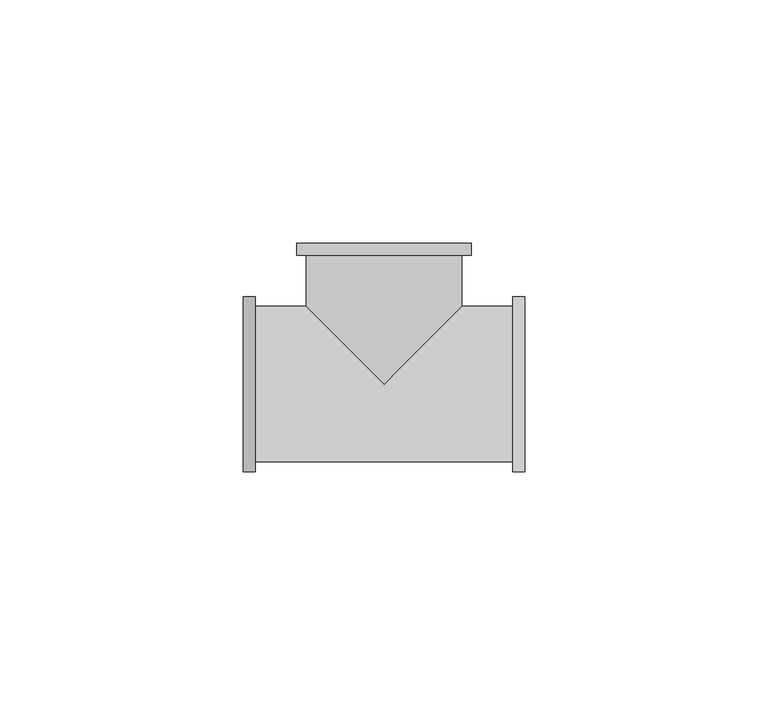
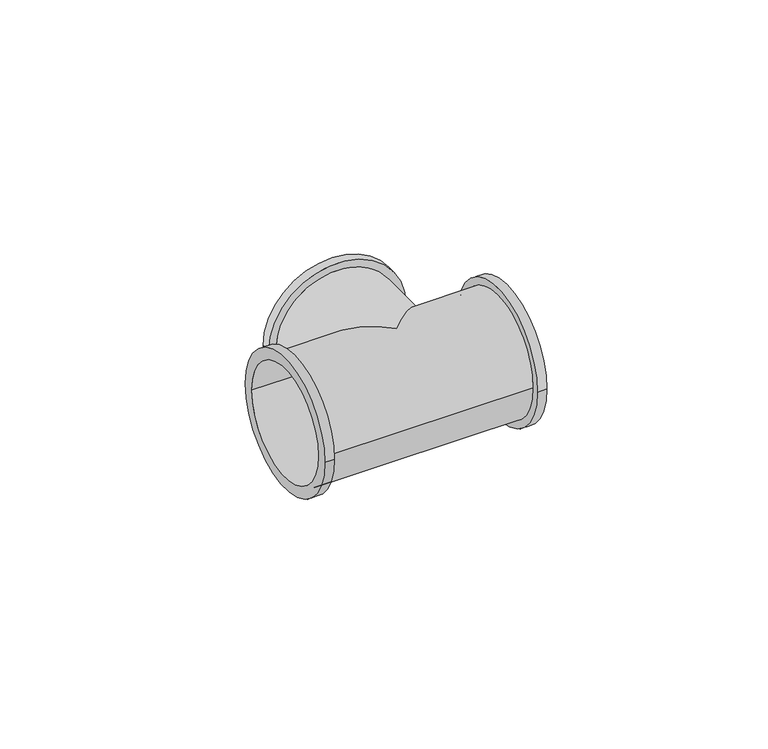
"""IFC4 building model written with IfcOpenShell, lengths in millimetres: pipe fitting geometry, БИР ПЕКС_НПР_Тройник ПЕКС : Тройник ПЕКС_НПР."""

from ifc_helpers import new_model, si_unit, frame, origin, place, context, project, spatial, polyline, circle_curve, ellipse_curve, source, transform, mapped, element, save
from ifc_brep_helpers import plane_surface, cylinder_surface, revolved_surface, advanced_brep


def pipe_fitting_c4d96b34(model_context):
    return source(origin(), model_context, "Body", "AdvancedBrep", [
        advanced_brep(
        [(-18.0, 29.0, 0.0), (18.0, 29.0, 0.0), (-15.0, 29.0, 0.0), (15.0, 29.0, 0.0), (16.0, 16.0, 0.0), (0.0, 0.0, -16.0), (-16.0, 16.0, 0.0), (-16.0, 26.5, 0.0), (16.0, 26.5, 0.0), (0.0, 0.0, 16.0), (29.0, -18.0, 0.0), (29.0, 18.0, 0.0), (-29.0, -18.0, 0.0), (-29.0, 18.0, 0.0), (-29.0, -15.0, 0.0), (-29.0, 15.0, 0.0), (26.5, 16.0, 0.0), (26.5, -16.0, 0.0), (-26.5, -16.0, 0.0), (-26.5, 16.0, 0.0), (-18.0, 26.5, 0.0), (18.0, 26.5, 0.0), (-26.5, -18.0, 0.0), (-26.5, 18.0, 0.0), (26.5, -18.0, 0.0), (26.5, 18.0, 0.0), (22.0, -15.0, 0.0), (22.0, 15.0, 0.0), (15.0, 15.0, 0.0), (0.0, 0.0, -15.0), (-15.0, 15.0, 0.0), (0.0, 0.0, 15.0)],
        [
            (0, 1, circle_curve(frame((0.0, 29.0, 0.0), z_axis=(0.0, 1.0, 0.0), x_axis=(1.0, 0.0, 0.0)), 18.0)),
            (1, 0, circle_curve(frame((0.0, 29.0, 0.0), z_axis=(0.0, 1.0, 0.0), x_axis=(1.0, 0.0, 0.0)), 18.0)),
            (2, 3, circle_curve(frame((0.0, 29.0, 0.0), z_axis=(0.0, -1.0, 0.0), x_axis=(1.0, 0.0, 0.0)), 15.0)),
            (3, 2, circle_curve(frame((0.0, 29.0, 0.0), z_axis=(0.0, -1.0, 0.0), x_axis=(1.0, 0.0, 0.0)), 15.0)),
            (4, 5, ellipse_curve(frame((0.0, 0.0, 0.0), z_axis=(-0.7071067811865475, 0.7071067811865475, 0.0), x_axis=(-0.7071067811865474, -0.7071067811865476, 0.0)), 22.627417, 16.0)),
            (5, 6, ellipse_curve(frame((0.0, 0.0, 0.0), z_axis=(0.7071067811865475, 0.7071067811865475, 0.0), x_axis=(0.7071067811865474, -0.7071067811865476, 0.0)), 22.627417, 16.0)),
            (6, 7),
            (7, 8, circle_curve(frame((0.0, 26.5, 0.0), z_axis=(0.0, -1.0, 0.0), x_axis=(1.0, 0.0, 0.0)), 16.0)),
            (8, 4),
            (9, 4, ellipse_curve(frame((0.0, 0.0, 0.0), z_axis=(-0.7071067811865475, 0.7071067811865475, 0.0), x_axis=(-0.7071067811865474, -0.7071067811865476, 0.0)), 22.627417, 16.0)),
            (8, 7, circle_curve(frame((0.0, 26.5, 0.0), z_axis=(0.0, -1.0, 0.0), x_axis=(1.0, 0.0, 0.0)), 16.0)),
            (6, 9, ellipse_curve(frame((0.0, 0.0, 0.0), z_axis=(0.7071067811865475, 0.7071067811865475, 0.0), x_axis=(0.7071067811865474, -0.7071067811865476, 0.0)), 22.627417, 16.0)),
            (10, 11, circle_curve(frame((29.0, 0.0, 0.0), z_axis=(1.0, 0.0, 0.0), x_axis=(0.0, 1.0, 0.0)), 18.0)),
            (11, 10, circle_curve(frame((29.0, 0.0, 0.0), z_axis=(1.0, 0.0, 0.0), x_axis=(0.0, 1.0, 0.0)), 18.0)),
            (12, 13, circle_curve(frame((-29.0, 0.0, 0.0), z_axis=(-1.0, 0.0, 0.0), x_axis=(0.0, 1.0, 0.0)), 18.0)),
            (13, 12, circle_curve(frame((-29.0, 0.0, 0.0), z_axis=(-1.0, 0.0, 0.0), x_axis=(0.0, 1.0, 0.0)), 18.0)),
            (14, 15, circle_curve(frame((-29.0, 0.0, 0.0), z_axis=(1.0, 0.0, 0.0), x_axis=(0.0, 1.0, 0.0)), 15.0)),
            (15, 14, circle_curve(frame((-29.0, 0.0, 0.0), z_axis=(1.0, 0.0, 0.0), x_axis=(0.0, 1.0, 0.0)), 15.0)),
            (4, 16),
            (16, 17, circle_curve(frame((26.5, 0.0, 0.0), z_axis=(-1.0, 0.0, 0.0), x_axis=(0.0, 1.0, 0.0)), 16.0)),
            (17, 18),
            (18, 19, circle_curve(frame((-26.5, 0.0, 0.0), z_axis=(1.0, 0.0, 0.0), x_axis=(0.0, 1.0, 0.0)), 16.0)),
            (19, 6),
            (19, 18, circle_curve(frame((-26.5, 0.0, 0.0), z_axis=(1.0, 0.0, 0.0), x_axis=(0.0, 1.0, 0.0)), 16.0)),
            (17, 16, circle_curve(frame((26.5, 0.0, 0.0), z_axis=(-1.0, 0.0, 0.0), x_axis=(0.0, 1.0, 0.0)), 16.0)),
            (20, 21, circle_curve(frame((0.0, 26.5, 0.0), z_axis=(0.0, -1.0, 0.0), x_axis=(1.0, 0.0, 0.0)), 18.0)),
            (21, 20, circle_curve(frame((0.0, 26.5, 0.0), z_axis=(0.0, -1.0, 0.0), x_axis=(1.0, 0.0, 0.0)), 18.0)),
            (20, 0),
            (1, 21),
            (22, 23, circle_curve(frame((-26.5, 0.0, 0.0), z_axis=(1.0, 0.0, 0.0), x_axis=(0.0, 1.0, 0.0)), 18.0)),
            (23, 22, circle_curve(frame((-26.5, 0.0, 0.0), z_axis=(1.0, 0.0, 0.0), x_axis=(0.0, 1.0, 0.0)), 18.0)),
            (13, 23),
            (22, 12),
            (24, 25, circle_curve(frame((26.5, 0.0, 0.0), z_axis=(-1.0, 0.0, 0.0), x_axis=(0.0, 1.0, 0.0)), 18.0)),
            (25, 24, circle_curve(frame((26.5, 0.0, 0.0), z_axis=(-1.0, 0.0, 0.0), x_axis=(0.0, 1.0, 0.0)), 18.0)),
            (10, 24),
            (25, 11),
            (26, 27, circle_curve(frame((22.0, 0.0, 0.0), z_axis=(1.0, 0.0, 0.0), x_axis=(0.0, 1.0, 0.0)), 15.0)),
            (27, 28),
            (28, 29, ellipse_curve(frame((0.0, 0.0, 0.0), z_axis=(-0.7071067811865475, 0.7071067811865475, 0.0), x_axis=(0.7071067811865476, 0.7071067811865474, 0.0)), 21.2132034, 15.0)),
            (29, 30, ellipse_curve(frame((0.0, 0.0, 0.0), z_axis=(0.7071067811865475, 0.7071067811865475, 0.0), x_axis=(0.7071067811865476, -0.7071067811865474, 0.0)), 21.2132034, 15.0)),
            (30, 15),
            (14, 26),
            (27, 26, circle_curve(frame((22.0, 0.0, 0.0), z_axis=(1.0, 0.0, 0.0), x_axis=(0.0, 1.0, 0.0)), 15.0)),
            (30, 31, ellipse_curve(frame((0.0, 0.0, 0.0), z_axis=(0.7071067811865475, 0.7071067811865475, 0.0), x_axis=(0.7071067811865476, -0.7071067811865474, 0.0)), 21.2132034, 15.0)),
            (31, 28, ellipse_curve(frame((0.0, 0.0, 0.0), z_axis=(-0.7071067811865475, 0.7071067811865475, 0.0), x_axis=(0.7071067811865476, 0.7071067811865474, 0.0)), 21.2132034, 15.0)),
            (2, 30),
            (28, 3),
        ],
        [
            plane_surface(frame((16.0, 29.0, 0.0), z_axis=(0.0, 1.0, 0.0), x_axis=(0.0, 0.0, -1.0))),
            cylinder_surface(frame((0.0, 29.0, 0.0), z_axis=(0.0, -1.0, 0.0), x_axis=(1.0, 0.0, 0.0)), 16.0),
            plane_surface(frame((29.0, 16.0, 0.0), z_axis=(1.0, 0.0, 0.0), x_axis=(0.0, 0.0, 1.0))),
            plane_surface(frame((-29.0, 16.0, 0.0), z_axis=(-1.0, 0.0, 0.0), x_axis=(0.0, 0.0, -1.0))),
            cylinder_surface(frame((-29.0, 0.0, 0.0), z_axis=(1.0, 0.0, 0.0), x_axis=(0.0, 1.0, 0.0)), 16.0),
            plane_surface(frame((18.0, 26.5, 0.0), z_axis=(0.0, -1.0, 0.0), x_axis=(0.0, 0.0, 1.0))),
            cylinder_surface(frame((0.0, 29.0, 0.0), z_axis=(0.0, -1.0, 0.0), x_axis=(1.0, 0.0, 0.0)), 18.0),
            plane_surface(frame((-26.5, 18.0, 0.0), z_axis=(1.0, 0.0, 0.0), x_axis=(0.0, 0.0, 1.0))),
            cylinder_surface(frame((-26.5, 0.0, 0.0), z_axis=(-1.0, 0.0, 0.0), x_axis=(0.0, 1.0, 0.0)), 18.0),
            plane_surface(frame((26.5, 18.0, 0.0), z_axis=(-1.0, 0.0, 0.0), x_axis=(0.0, 0.0, -1.0))),
            cylinder_surface(frame((26.5, 0.0, 0.0), z_axis=(1.0, 0.0, 0.0), x_axis=(0.0, 1.0, 0.0)), 18.0),
            revolved_surface(polyline([(22.0, 15.0, 0.0), (-29.0, 15.0, 0.0)]), (-29.0, 0.0, 0.0), (1.0, 0.0, 0.0)),
            revolved_surface(polyline([(15.0, -14.999999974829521, 0.0), (15.0, 29.0, 0.0)]), (0.0, 29.0, 0.0), (0.0, -1.0, 0.0)),
            plane_surface(frame((22.0, 15.0, 0.0), z_axis=(-1.0, 0.0, 0.0), x_axis=(0.0, 0.0, 1.0))),
        ],
        [
            (0, [[1, 2], [3, 4]]),
            (1, [[5, 6, 7, 8, 9]]),
            (1, [[10, -9, 11, -7, 12]]),
            (2, [[13, 14]]),
            (3, [[15, 16], [17, 18]]),
            (4, [[-5, 19, 20, 21, 22, 23, -6]]),
            (4, [[-10, -12, -23, 24, -21, 25, -19]]),
            (5, [[26, 27], [-8, -11]]),
            (6, [[-26, 28, -2, 29]]),
            (6, [[-27, -29, -1, -28]]),
            (7, [[30, 31], [-22, -24]]),
            (8, [[-16, 32, -30, 33]]),
            (8, [[-15, -33, -31, -32]]),
            (9, [[34, 35], [-20, -25]]),
            (10, [[-13, 36, -35, 37]]),
            (10, [[-14, -37, -34, -36]]),
            (11, [[38, 39, 40, 41, 42, -17, 43]]),
            (11, [[44, -43, -18, -42, 45, 46, -39]]),
            (12, [[47, -41, -40, 48, -3]]),
            (12, [[-47, -4, -48, -46, -45]]),
            (13, [[-44, -38]]),
        ],
    ),
    ])


if __name__ == "__main__":
    model = new_model("IFC4")
    model_context = context("Model", 3, world=origin())
    ifc_project = project(units=[si_unit("LENGTHUNIT", "METRE", prefix="MILLI")], contexts=[model_context])
    site = spatial("IfcSite", under=ifc_project)
    building = spatial("IfcBuilding", under=site)
    placement = place(None, origin())
    pipe_fitting_shape = pipe_fitting_c4d96b34(model_context)
    element("IfcPipeFitting", 1, ObjectType="БИР ПЕКС_НПР_Тройник ПЕКС : Тройник ПЕКС_НПР", at=placement, inside=building, context=model_context, shape_type="MappedRepresentation", body=[
        mapped(pipe_fitting_shape, transform((0.0, 0.0, 0.0), x_axis=(1.0, 0.0, 0.0), y_axis=(0.0, 1.0, 0.0), z_axis=(0.0, 0.0, 1.0))),
    ])
    save(model, "model.ifc")
